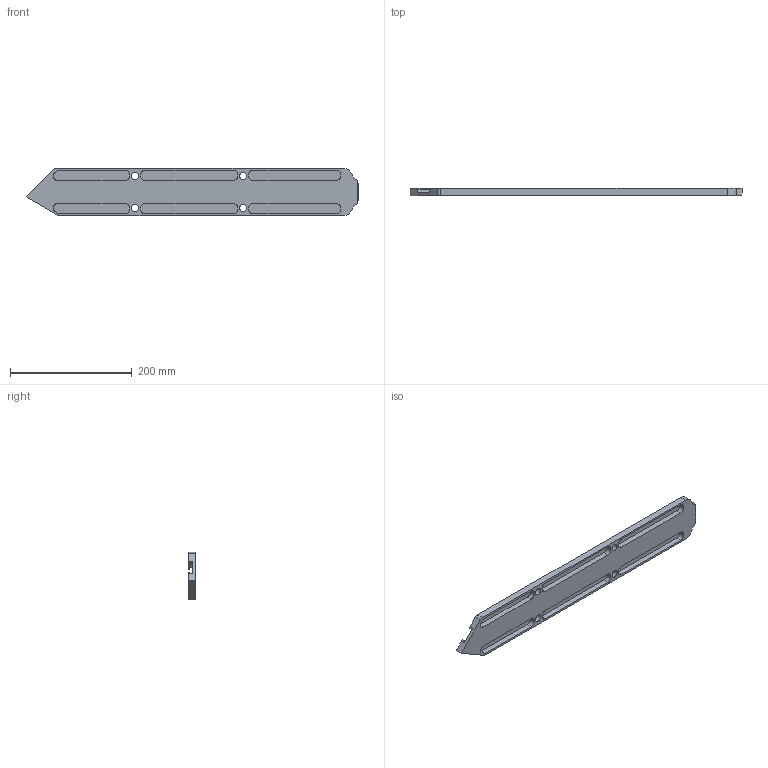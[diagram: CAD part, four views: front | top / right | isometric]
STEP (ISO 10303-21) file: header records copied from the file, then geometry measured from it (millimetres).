
FILE_DESCRIPTION(('STEP AP214'), '1');
FILE_NAME('P1.WSD5080.250.108.001 _ ﾍ瑜粱', '', ('UNSPECIFIED'), ('UNSPECIFIED'), 'C3D Converter', 'C3D Toolkit', '');
FILE_SCHEMA(('AUTOMOTIVE_DESIGN { 1 0 10303 214 3 1 1}'));
Length unit declared in the file: millimetre
Products named in the file (1): P1.WSD5080.250.108.001
Bounding box: 545 x 11.5 x 78 mm (x, y, z)
Volume: 238024.4 mm3; surface area: 124316.6 mm2
Topology: 1 solids, 1 shells, 91 faces, 243 edges, 162 vertices
Faces by surface type: plane 51, cylinder 40
Full cylindrical faces by diameter (mm): 8 x2, 12 x4
Entity records: 2878 total; most frequent: DIRECTION 501, CARTESIAN_POINT 491, ORIENTED_EDGE 474, EDGE_CURVE 237, AXIS2_PLACEMENT_3D 172, VERTEX_POINT 162, LINE 157, VECTOR 157
